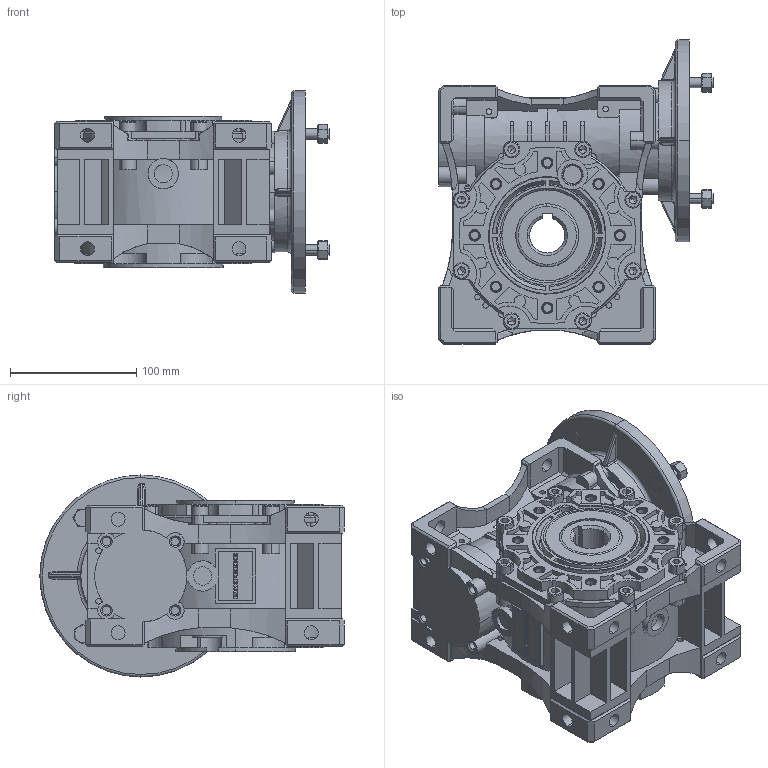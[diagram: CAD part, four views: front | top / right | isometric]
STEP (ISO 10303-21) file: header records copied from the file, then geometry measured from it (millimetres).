
FILE_DESCRIPTION (( 'STEP AP203' ), '1' );
FILE_NAME ('TM-075_160-14.STEP', '2023-03-27T09:42:49', ( '' ), ( '' ), 'SwSTEP 2.0', 'SolidWorks 2022', '' );
FILE_SCHEMA (( 'CONFIG_CONTROL_DESIGN' ));
Length unit declared in the file: millimetre
Products named in the file (1): TM-075_160-14
Bounding box: 217.5 x 241 x 160 mm (x, y, z)
Surface area: 400950.4 mm2 (no closed solid volume)
Topology: 0 solids, 68 shells, 2562 faces, 6549 edges, 4213 vertices
Faces by surface type: plane 1250, cylinder 979, cone 252, torus 48, bspline 33
Entity records: 96553 total; most frequent: CARTESIAN_POINT 36329, ORIENTED_EDGE 13024, DIRECTION 11759, EDGE_CURVE 6529, AXIS2_PLACEMENT_3D 4428, VERTEX_POINT 4213, LINE 2903, VECTOR 2903
